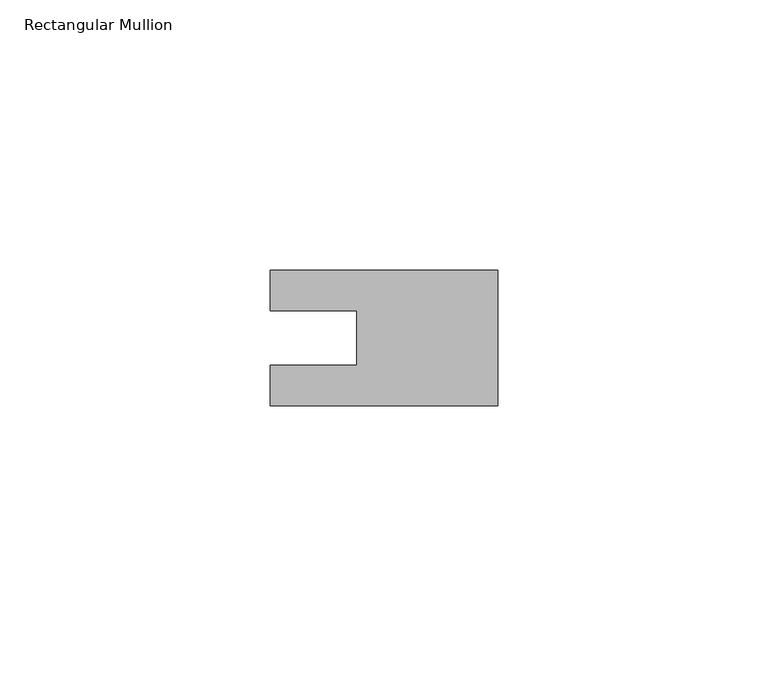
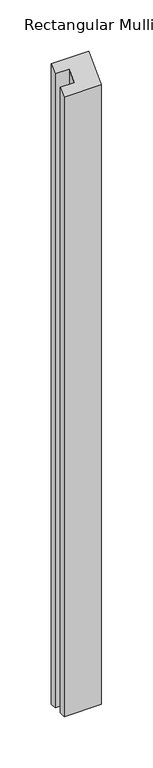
"""IFC4 building model written with IfcOpenShell, lengths in millimetres: member geometry, Rectangular Mullion : 22_IM_HGS_DET2_onder_40mm."""

from ifc_helpers import new_model, si_unit, origin, place, context, project, spatial, faceted_brep, source, transform, mapped, element, save


def rectangular_mullion_288d5927(model_context):
    return source(origin(), model_context, "Body", "Brep", [
        faceted_brep([(0.0, 12.5, -750.0), (0.0, -12.5, -750.0), (-42.0, -12.5, -750.0), (-42.0, -5.0, -750.0), (-26.0, -5.0, -750.0), (-26.0, 5.0, -750.0), (-42.0, 5.0, -750.0), (-42.0, 12.5, -750.0), (-42.0, 12.5, 12.5), (0.0, 12.5, 12.5), (-42.0, 5.0, 5.0), (-26.0, 5.0, 5.0), (-26.0, -5.0, -5.0), (-42.0, -5.0, -5.0), (-42.0, -12.5, -12.5), (0.0, -12.5, -12.5)], [[[0, 1, 2, 3, 4, 5, 6, 7]], [[8, 9, 0, 7]], [[10, 8, 7, 6]], [[11, 10, 6, 5]], [[12, 11, 5, 4]], [[13, 12, 4, 3]], [[14, 13, 3, 2]], [[15, 14, 2, 1]], [[9, 15, 1, 0]], [[9, 8, 10, 11, 12, 13, 14, 15]]]),
    ])


if __name__ == "__main__":
    model = new_model("IFC4")
    model_context = context("Model", 3, world=origin())
    ifc_project = project(units=[si_unit("LENGTHUNIT", "METRE", prefix="MILLI")], contexts=[model_context])
    site = spatial("IfcSite", under=ifc_project)
    building = spatial("IfcBuilding", under=site)
    placement = place(None, origin())
    rectangular_mullion_shape = rectangular_mullion_288d5927(model_context)
    element("IfcMember", 1, ObjectType="Rectangular Mullion : 22_IM_HGS_DET2_onder_40mm", at=placement, inside=building, context=model_context, shape_type="MappedRepresentation", body=[
        mapped(rectangular_mullion_shape, transform((0.0, 0.0, 0.0), x_axis=(1.0, 0.0, 0.0), y_axis=(0.0, 1.0, 0.0), z_axis=(0.0, 0.0, 1.0))),
    ])
    save(model, "model.ifc")
